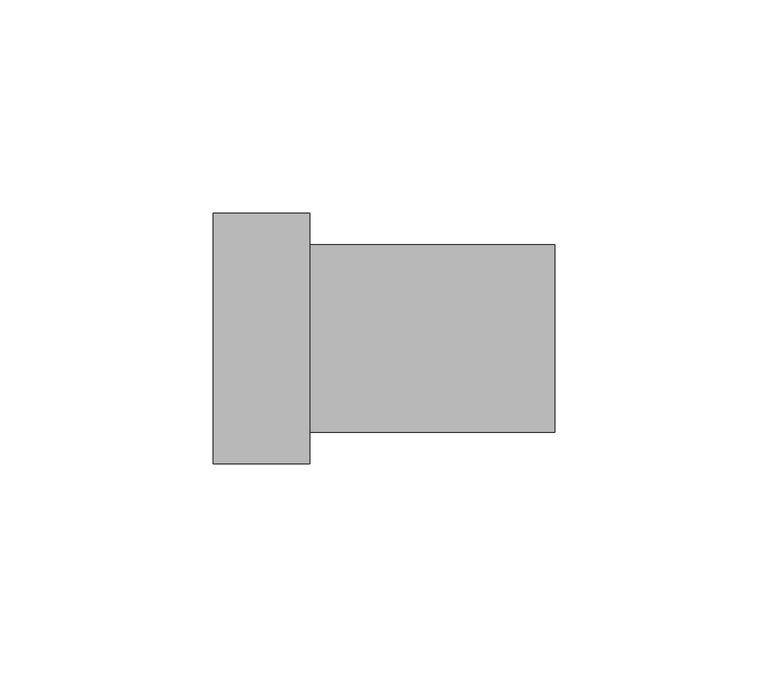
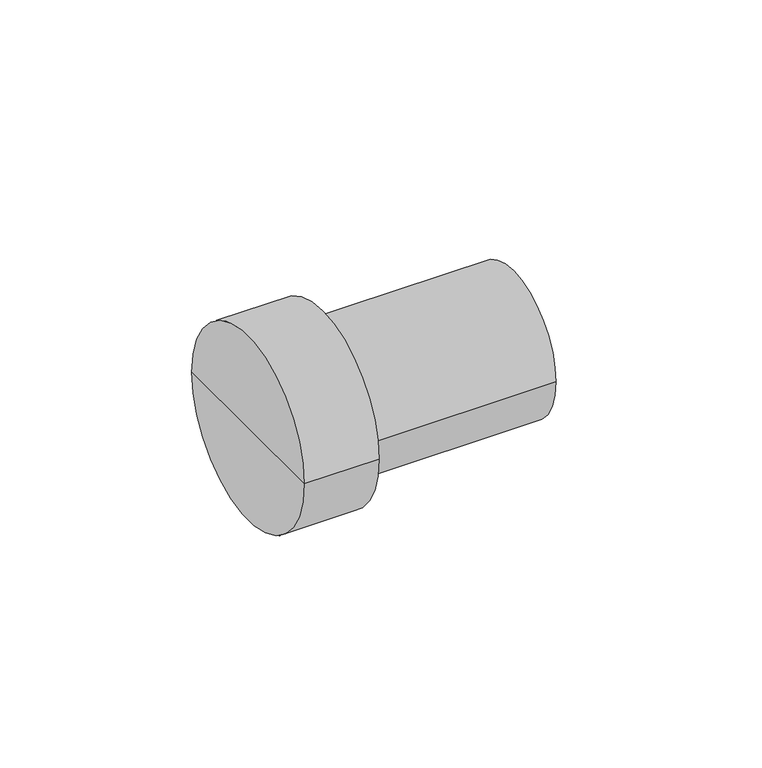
"""IFC4 building model written with IfcOpenShell, lengths in millimetres: cable carrier fitting geometry, Муфта прямая труба-коробка BS : CTA10D-BS40-K41-025."""

from ifc_helpers import new_model, si_unit, frame, origin, place, context, project, spatial, circle_curve, source, transform, mapped, element, save
from ifc_brep_helpers import plane_surface, cylinder_surface, advanced_brep


def cable_carrier_fitting_115ec05a(model_context):
    return source(origin(), model_context, "Body", "AdvancedBrep", [
        advanced_brep(
        [(-17.4590195, -22.0, 0.0), (-17.4590195, 22.0, 0.0), (40.0, 22.0, 0.0), (40.0, -22.0, 0.0), (-40.0, 0.0, 0.0), (-40.0, 29.3253393, 0.0), (-40.0, -29.3253393, 0.0), (40.0, 0.0, 0.0), (-17.4590195, -29.3253393, 0.0), (-17.4590195, 29.3253393, 0.0)],
        [
            (0, 1, circle_curve(frame((-17.4590195, 0.0, 0.0), z_axis=(1.0, 0.0, 0.0), x_axis=(0.0, 1.0, 0.0)), 22.0)),
            (1, 2),
            (2, 3, circle_curve(frame((40.0, 0.0, 0.0), z_axis=(-1.0, 0.0, 0.0), x_axis=(0.0, 1.0, 0.0)), 22.0)),
            (3, 0),
            (1, 0, circle_curve(frame((-17.4590195, 0.0, 0.0), z_axis=(1.0, 0.0, 0.0), x_axis=(0.0, 1.0, 0.0)), 22.0)),
            (3, 2, circle_curve(frame((40.0, 0.0, 0.0), z_axis=(-1.0, 0.0, 0.0), x_axis=(0.0, 1.0, 0.0)), 22.0)),
            (4, 5),
            (5, 6, circle_curve(frame((-40.0, 0.0, 0.0), z_axis=(-1.0, 0.0, 0.0), x_axis=(0.0, 1.0, 0.0)), 29.3253393)),
            (6, 4),
            (6, 5, circle_curve(frame((-40.0, 0.0, 0.0), z_axis=(-1.0, 0.0, 0.0), x_axis=(0.0, 1.0, 0.0)), 29.3253393)),
            (2, 7),
            (7, 3),
            (8, 9, circle_curve(frame((-17.4590195, 0.0, 0.0), z_axis=(1.0, 0.0, 0.0), x_axis=(0.0, 1.0, 0.0)), 29.3253393)),
            (9, 1),
            (0, 8),
            (9, 8, circle_curve(frame((-17.4590195, 0.0, 0.0), z_axis=(1.0, 0.0, 0.0), x_axis=(0.0, 1.0, 0.0)), 29.3253393)),
            (5, 9),
            (8, 6),
        ],
        [
            cylinder_surface(frame((1965.0, 0.0, 0.0), z_axis=(-1.0, 0.0, 0.0), x_axis=(0.0, 1.0, 0.0)), 22.0),
            plane_surface(frame((-40.0, 0.0, 0.0), z_axis=(-1.0, 0.0, 0.0), x_axis=(0.0, 1.0, 0.0))),
            plane_surface(frame((40.0, 0.0, 0.0), z_axis=(1.0, 0.0, 0.0), x_axis=(0.0, 1.0, 0.0))),
            plane_surface(frame((-17.4590195, 0.0, 0.0), z_axis=(1.0, 0.0, 0.0), x_axis=(0.0, 1.0, 0.0))),
            cylinder_surface(frame((1965.0, 0.0, 0.0), z_axis=(-1.0, 0.0, 0.0), x_axis=(0.0, 1.0, 0.0)), 29.3253393),
        ],
        [
            (0, [[1, 2, 3, 4]]),
            (0, [[5, -4, 6, -2]]),
            (1, [[7, 8, 9]]),
            (1, [[-9, 10, -7]]),
            (2, [[-3, 11, 12]]),
            (2, [[-6, -12, -11]]),
            (3, [[13, 14, -1, 15]]),
            (3, [[16, -15, -5, -14]]),
            (4, [[-8, 17, -13, 18]]),
            (4, [[-10, -18, -16, -17]]),
        ],
    ),
    ])


if __name__ == "__main__":
    model = new_model("IFC4")
    model_context = context("Model", 3, world=origin())
    ifc_project = project(units=[si_unit("LENGTHUNIT", "METRE", prefix="MILLI")], contexts=[model_context])
    site = spatial("IfcSite", under=ifc_project)
    building = spatial("IfcBuilding", under=site)
    placement = place(None, origin())
    cable_carrier_fitting_shape = cable_carrier_fitting_115ec05a(model_context)
    element("IfcCableCarrierFitting", 1, ObjectType="Муфта прямая труба-коробка BS : CTA10D-BS40-K41-025", at=placement, inside=building, context=model_context, shape_type="MappedRepresentation", body=[
        mapped(cable_carrier_fitting_shape, transform((0.0, 0.0, 0.0), x_axis=(1.0, 0.0, 0.0), y_axis=(0.0, 1.0, 0.0), z_axis=(0.0, 0.0, 1.0))),
    ])
    save(model, "model.ifc")
